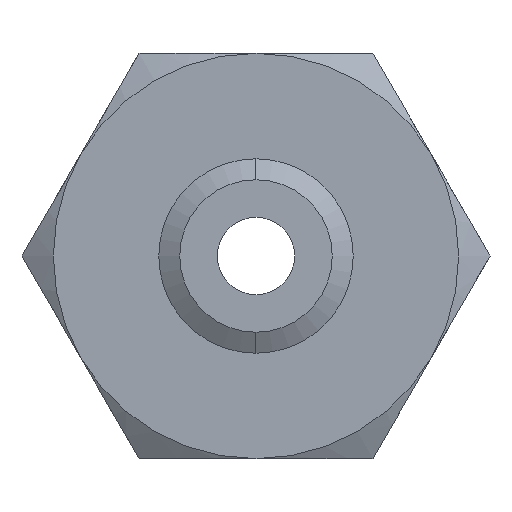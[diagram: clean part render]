
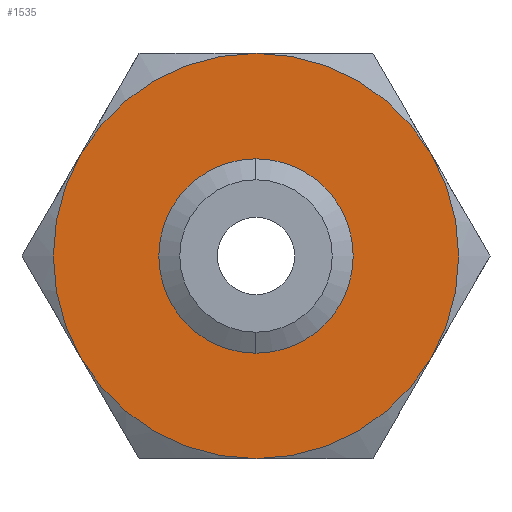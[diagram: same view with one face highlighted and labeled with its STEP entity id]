
A CAD part, front view. The second image highlights one B-rep face of the part: STEP entity #1535.
In plain terms, the highlighted planar face has unit normal (0, -1, 0).
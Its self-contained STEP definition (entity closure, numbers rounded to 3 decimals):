
#36 = EDGE_CURVE ( 'NONE', #49, #1428, #1570, .T. ) ;
#49 = VERTEX_POINT ( 'NONE', #1657 ) ;
#565 = CARTESIAN_POINT ( 'NONE',  ( 21.651, 0., -12.5 ) ) ;
#566 = DIRECTION ( 'NONE',  ( 0., 0., 1. ) ) ;
#567 = DIRECTION ( 'NONE',  ( 0., 1., 0. ) ) ;
#568 = CARTESIAN_POINT ( 'NONE',  ( 0., 0., 0. ) ) ;
#569 = AXIS2_PLACEMENT_3D ( 'NONE', #568, #567, #566 ) ;
#570 = CIRCLE ( 'NONE', #569, 25. ) ;
#571 = DIRECTION ( 'NONE',  ( 0., 0., 1. ) ) ;
#572 = DIRECTION ( 'NONE',  ( 0., 1., 0. ) ) ;
#573 = CARTESIAN_POINT ( 'NONE',  ( 0., 0., 0. ) ) ;
#574 = AXIS2_PLACEMENT_3D ( 'NONE', #573, #572, #571 ) ;
#575 = CIRCLE ( 'NONE', #574, 25. ) ;
#576 = CARTESIAN_POINT ( 'NONE',  ( 0., 0., -25. ) ) ;
#577 = CARTESIAN_POINT ( 'NONE',  ( -21.651, 0., -12.5 ) ) ;
#578 = DIRECTION ( 'NONE',  ( 0., 0., 1. ) ) ;
#579 = DIRECTION ( 'NONE',  ( 0., 1., 0. ) ) ;
#580 = CARTESIAN_POINT ( 'NONE',  ( 0., 0., 0. ) ) ;
#581 = AXIS2_PLACEMENT_3D ( 'NONE', #580, #579, #578 ) ;
#582 = CIRCLE ( 'NONE', #581, 25. ) ;
#583 = CARTESIAN_POINT ( 'NONE',  ( -21.651, 0., 12.5 ) ) ;
#584 = DIRECTION ( 'NONE',  ( 0., 0., 1. ) ) ;
#585 = DIRECTION ( 'NONE',  ( 0., 1., 0. ) ) ;
#586 = CARTESIAN_POINT ( 'NONE',  ( 0., 0., 0. ) ) ;
#587 = AXIS2_PLACEMENT_3D ( 'NONE', #586, #585, #584 ) ;
#591 = CIRCLE ( 'NONE', #587, 25. ) ;
#621 = CARTESIAN_POINT ( 'NONE',  ( 0., 0., 9.402 ) ) ;
#622 = DIRECTION ( 'NONE',  ( 0., 0., 1. ) ) ;
#623 = DIRECTION ( 'NONE',  ( 0., 1., 0. ) ) ;
#624 = CARTESIAN_POINT ( 'NONE',  ( 0., 0., 0. ) ) ;
#625 = AXIS2_PLACEMENT_3D ( 'NONE', #624, #623, #622 ) ;
#626 = CIRCLE ( 'NONE', #625, 25. ) ;
#627 = CARTESIAN_POINT ( 'NONE',  ( 21.651, 0., 12.5 ) ) ;
#628 = DIRECTION ( 'NONE',  ( 0., 0., 1. ) ) ;
#629 = DIRECTION ( 'NONE',  ( 0., 1., 0. ) ) ;
#630 = CARTESIAN_POINT ( 'NONE',  ( 0., 0., 0. ) ) ;
#631 = AXIS2_PLACEMENT_3D ( 'NONE', #630, #629, #628 ) ;
#632 = CARTESIAN_POINT ( 'NONE',  ( 0., 0., 25. ) ) ;
#638 = CIRCLE ( 'NONE', #631, 25. ) ;
#710 = DIRECTION ( 'NONE',  ( 0., 0., -1. ) ) ;
#711 = DIRECTION ( 'NONE',  ( 0., -1., 0. ) ) ;
#712 = CARTESIAN_POINT ( 'NONE',  ( 0., 0., 0. ) ) ;
#713 = AXIS2_PLACEMENT_3D ( 'NONE', #712, #711, #710 ) ;
#714 = CIRCLE ( 'NONE', #713, 9.402 ) ;
#826 = DIRECTION ( 'NONE',  ( 0., 0., 1. ) ) ;
#827 = DIRECTION ( 'NONE',  ( 0., 1., 0. ) ) ;
#828 = CARTESIAN_POINT ( 'NONE',  ( 14.434, 0., -25. ) ) ;
#829 = AXIS2_PLACEMENT_3D ( 'NONE', #828, #827, #826 ) ;
#830 = PLANE ( 'NONE',  #829 ) ;
#831 = FACE_BOUND ( 'NONE', #1426, .T. ) ;
#832 = FACE_OUTER_BOUND ( 'NONE', #1456, .T. ) ;
#1412 = ORIENTED_EDGE ( 'NONE', *, *, #1413, .F. ) ;
#1413 = EDGE_CURVE ( 'NONE', #1414, #1459, #591, .T. ) ;
#1414 = VERTEX_POINT ( 'NONE', #583 ) ;
#1415 = ORIENTED_EDGE ( 'NONE', *, *, #1416, .F. ) ;
#1416 = EDGE_CURVE ( 'NONE', #1417, #1414, #582, .T. ) ;
#1417 = VERTEX_POINT ( 'NONE', #577 ) ;
#1418 = ORIENTED_EDGE ( 'NONE', *, *, #1419, .F. ) ;
#1419 = EDGE_CURVE ( 'NONE', #1420, #1417, #575, .T. ) ;
#1420 = VERTEX_POINT ( 'NONE', #576 ) ;
#1421 = ORIENTED_EDGE ( 'NONE', *, *, #1422, .F. ) ;
#1422 = EDGE_CURVE ( 'NONE', #1423, #1420, #570, .T. ) ;
#1423 = VERTEX_POINT ( 'NONE', #565 ) ;
#1424 = ORIENTED_EDGE ( 'NONE', *, *, #1425, .F. ) ;
#1425 = EDGE_CURVE ( 'NONE', #1460, #1423, #626, .T. ) ;
#1426 = EDGE_LOOP ( 'NONE', ( #1475, #1476 ) ) ;
#1428 = VERTEX_POINT ( 'NONE', #621 ) ;
#1456 = EDGE_LOOP ( 'NONE', ( #1457, #1412, #1415, #1418, #1421, #1424 ) ) ;
#1457 = ORIENTED_EDGE ( 'NONE', *, *, #1458, .F. ) ;
#1458 = EDGE_CURVE ( 'NONE', #1459, #1460, #638, .T. ) ;
#1459 = VERTEX_POINT ( 'NONE', #632 ) ;
#1460 = VERTEX_POINT ( 'NONE', #627 ) ;
#1475 = ORIENTED_EDGE ( 'NONE', *, *, #36, .F. ) ;
#1476 = ORIENTED_EDGE ( 'NONE', *, *, #1477, .F. ) ;
#1477 = EDGE_CURVE ( 'NONE', #1428, #49, #714, .T. ) ;
#1535 = ADVANCED_FACE ( 'NONE', ( #832, #831 ), #830, .F. ) ;
#1570 = CIRCLE ( 'NONE', #1625, 9.402 ) ;
#1622 = DIRECTION ( 'NONE',  ( 0., 0., -1. ) ) ;
#1623 = DIRECTION ( 'NONE',  ( 0., -1., 0. ) ) ;
#1624 = CARTESIAN_POINT ( 'NONE',  ( 0., 0., 0. ) ) ;
#1625 = AXIS2_PLACEMENT_3D ( 'NONE', #1624, #1623, #1622 ) ;
#1657 = CARTESIAN_POINT ( 'NONE',  ( 0., 0., -9.402 ) ) ;
